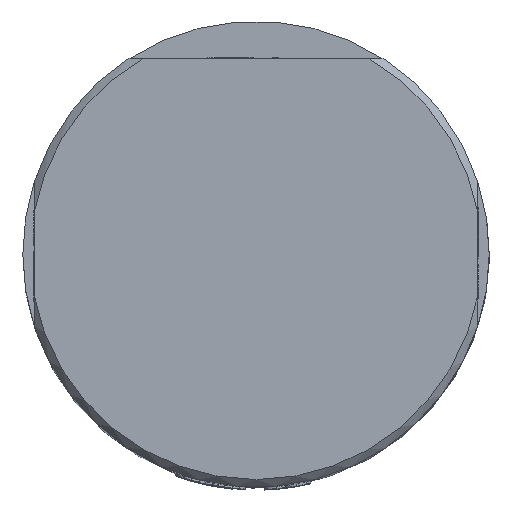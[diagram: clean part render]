
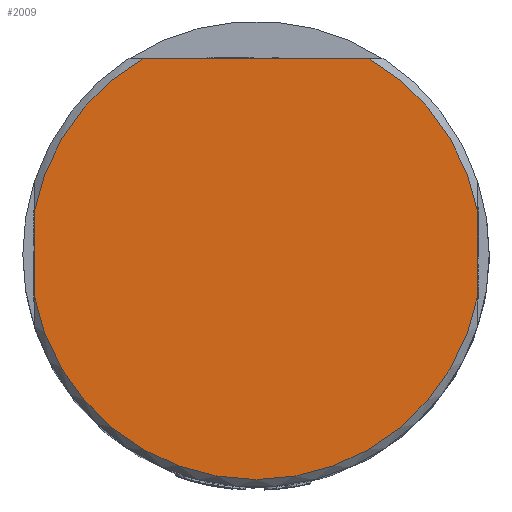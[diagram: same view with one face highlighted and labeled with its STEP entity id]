
A CAD part, top view. The second image highlights one B-rep face of the part: STEP entity #2009.
In plain terms, the highlighted planar face has unit normal (0, 0, 1).
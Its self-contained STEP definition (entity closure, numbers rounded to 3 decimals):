
#491=CIRCLE('',#21291,30.);
#493=CIRCLE('',#21294,30.);
#496=CIRCLE('',#21298,30.);
#835=PLANE('',#21300);
#1158=LINE('',#39913,#3751);
#1160=LINE('',#39938,#3753);
#1164=LINE('',#39957,#3757);
#2009=ADVANCED_FACE('',(#4782),#835,.T.);
#3751=VECTOR('',#23122,1.);
#3753=VECTOR('',#23144,1.);
#3757=VECTOR('',#23150,1.);
#4782=FACE_OUTER_BOUND('',#5885,.T.);
#5885=EDGE_LOOP('',(#9523,#9524,#9525,#9526,#9527,#9528));
#9523=ORIENTED_EDGE('',*,*,#16865,.T.);
#9524=ORIENTED_EDGE('',*,*,#16843,.T.);
#9525=ORIENTED_EDGE('',*,*,#16862,.T.);
#9526=ORIENTED_EDGE('',*,*,#16849,.T.);
#9527=ORIENTED_EDGE('',*,*,#16860,.T.);
#9528=ORIENTED_EDGE('',*,*,#16835,.T.);
#14014=VERTEX_POINT('',#39912);
#14015=VERTEX_POINT('',#39914);
#14024=VERTEX_POINT('',#39939);
#14025=VERTEX_POINT('',#39940);
#14030=VERTEX_POINT('',#39958);
#14031=VERTEX_POINT('',#39959);
#16835=EDGE_CURVE('',#14015,#14014,#1158,.T.);
#16843=EDGE_CURVE('',#14024,#14025,#1160,.T.);
#16849=EDGE_CURVE('',#14030,#14031,#1164,.T.);
#16860=EDGE_CURVE('',#14031,#14015,#491,.T.);
#16862=EDGE_CURVE('',#14025,#14030,#493,.T.);
#16865=EDGE_CURVE('',#14014,#14024,#496,.T.);
#21291=AXIS2_PLACEMENT_3D('',#39989,#23170,#23171);
#21294=AXIS2_PLACEMENT_3D('',#39992,#23176,#23177);
#21298=AXIS2_PLACEMENT_3D('',#39996,#23184,#23185);
#21300=AXIS2_PLACEMENT_3D('',#39998,#23188,#23189);
#23122=DIRECTION('',(-1.,0.,0.));
#23144=DIRECTION('',(0.,-1.,0.));
#23150=DIRECTION('',(0.,1.,0.));
#23170=DIRECTION('',(0.,0.,1.));
#23171=DIRECTION('',(1.,0.,0.));
#23176=DIRECTION('',(0.,0.,1.));
#23177=DIRECTION('',(1.,0.,0.));
#23184=DIRECTION('',(0.,0.,1.));
#23185=DIRECTION('',(1.,0.,0.));
#23188=DIRECTION('',(0.,0.,1.));
#23189=DIRECTION('',(1.,0.,0.));
#39912=CARTESIAN_POINT('',(-14.967,26.,107.5));
#39913=CARTESIAN_POINT('',(0.,26.,107.5));
#39914=CARTESIAN_POINT('',(14.967,26.,107.5));
#39938=CARTESIAN_POINT('',(-29.5,0.,107.5));
#39939=CARTESIAN_POINT('',(-29.5,5.454,107.5));
#39940=CARTESIAN_POINT('',(-29.5,-5.454,107.5));
#39957=CARTESIAN_POINT('',(29.5,0.,107.5));
#39958=CARTESIAN_POINT('',(29.5,-5.454,107.5));
#39959=CARTESIAN_POINT('',(29.5,5.454,107.5));
#39989=CARTESIAN_POINT('',(0.,0.,107.5));
#39992=CARTESIAN_POINT('',(0.,0.,107.5));
#39996=CARTESIAN_POINT('',(0.,0.,107.5));
#39998=CARTESIAN_POINT('',(0.,0.,107.5));
